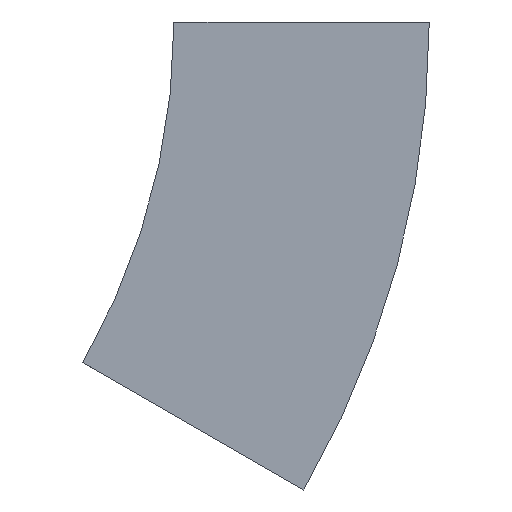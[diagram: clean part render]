
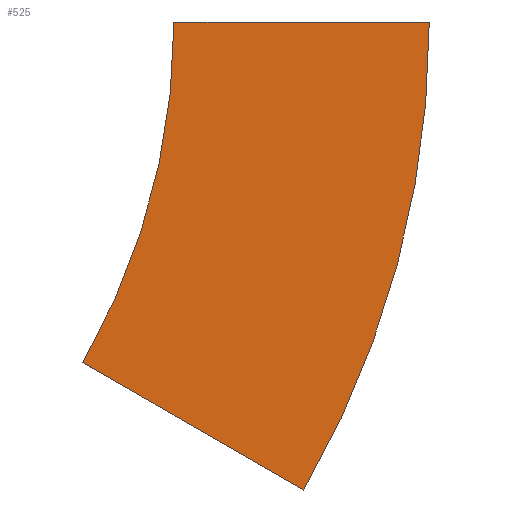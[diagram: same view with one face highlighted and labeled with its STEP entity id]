
A CAD part, left-side view. The second image highlights one B-rep face of the part: STEP entity #525.
In plain terms, the highlighted planar face has unit normal (-1, 0, 0) as drawn and (1, 0, 0) by its records, which use the part's own axes.
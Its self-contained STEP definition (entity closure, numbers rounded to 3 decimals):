
#4 = ORIENTED_EDGE ( 'NONE', *, *, #73, .F. ) ;
#24 = VERTEX_POINT ( 'NONE', #415 ) ;
#25 = ORIENTED_EDGE ( 'NONE', *, *, #183, .F. ) ;
#38 = DIRECTION ( 'NONE',  ( 1., 0., 0. ) ) ;
#40 = PLANE ( 'NONE',  #350 ) ;
#46 = CARTESIAN_POINT ( 'NONE',  ( 0., 300., 0. ) ) ;
#54 = ORIENTED_EDGE ( 'NONE', *, *, #233, .T. ) ;
#65 = AXIS2_PLACEMENT_3D ( 'NONE', #46, #268, #556 ) ;
#73 = EDGE_CURVE ( 'NONE', #371, #450, #464, .T. ) ;
#90 = DIRECTION ( 'NONE',  ( 0., -1., 0. ) ) ;
#99 = EDGE_CURVE ( 'NONE', #24, #450, #353, .T. ) ;
#183 = EDGE_CURVE ( 'NONE', #282, #371, #480, .T. ) ;
#217 = DIRECTION ( 'NONE',  ( -1., 0., 0. ) ) ;
#224 = AXIS2_PLACEMENT_3D ( 'NONE', #395, #38, #90 ) ;
#233 = EDGE_CURVE ( 'NONE', #282, #24, #326, .T. ) ;
#268 = DIRECTION ( 'NONE',  ( 1., 0., 0. ) ) ;
#271 = FACE_OUTER_BOUND ( 'NONE', #382, .T. ) ;
#274 = CARTESIAN_POINT ( 'NONE',  ( 0., -112.5, 0. ) ) ;
#282 = VERTEX_POINT ( 'NONE', #362 ) ;
#299 = CARTESIAN_POINT ( 'NONE',  ( 0., 40.192, -150. ) ) ;
#307 = CARTESIAN_POINT ( 'NONE',  ( 0., -57.235, -206.25 ) ) ;
#326 = CIRCLE ( 'NONE', #65, 412.5 ) ;
#350 = AXIS2_PLACEMENT_3D ( 'NONE', #504, #217, #396 ) ;
#353 = LINE ( 'NONE', #307, #432 ) ;
#362 = CARTESIAN_POINT ( 'NONE',  ( 0., -112.5, 0. ) ) ;
#364 = VECTOR ( 'NONE', #370, 1000. ) ;
#370 = DIRECTION ( 'NONE',  ( 0., 1., 0. ) ) ;
#371 = VERTEX_POINT ( 'NONE', #404 ) ;
#382 = EDGE_LOOP ( 'NONE', ( #4, #25, #54, #398 ) ) ;
#395 = CARTESIAN_POINT ( 'NONE',  ( 0., 300., 0. ) ) ;
#396 = DIRECTION ( 'NONE',  ( 0., 0., 1. ) ) ;
#398 = ORIENTED_EDGE ( 'NONE', *, *, #99, .T. ) ;
#404 = CARTESIAN_POINT ( 'NONE',  ( 0., 0., 0. ) ) ;
#415 = CARTESIAN_POINT ( 'NONE',  ( 0., -57.235, -206.25 ) ) ;
#432 = VECTOR ( 'NONE', #470, 1000. ) ;
#450 = VERTEX_POINT ( 'NONE', #299 ) ;
#464 = CIRCLE ( 'NONE', #224, 300. ) ;
#470 = DIRECTION ( 'NONE',  ( 0., 0.866, 0.5 ) ) ;
#480 = LINE ( 'NONE', #274, #364 ) ;
#504 = CARTESIAN_POINT ( 'NONE',  ( 0., -112.5, 0. ) ) ;
#525 = ADVANCED_FACE ( 'NONE', ( #271 ), #40, .F. ) ;
#556 = DIRECTION ( 'NONE',  ( 0., -1., 0. ) ) ;
